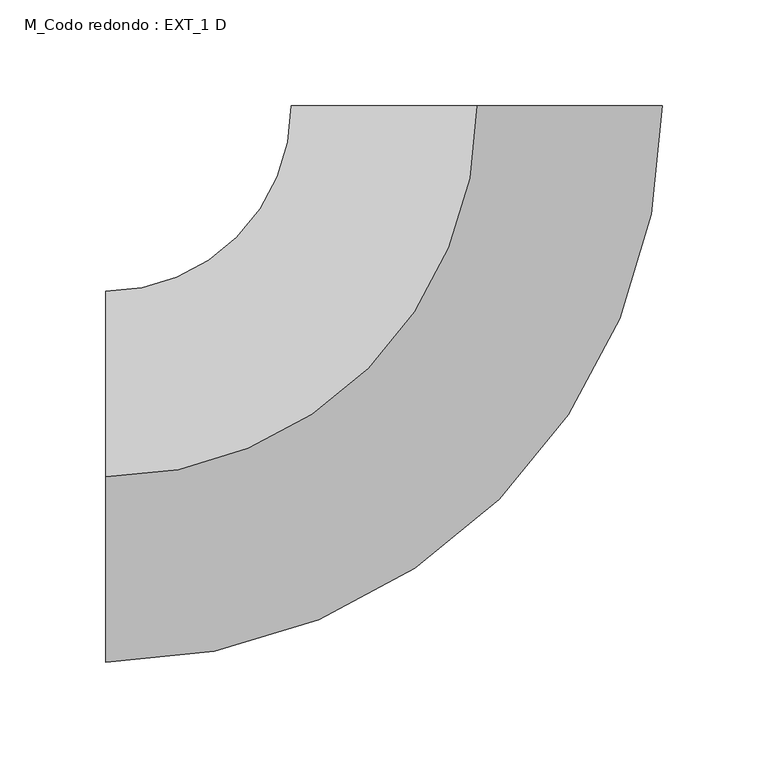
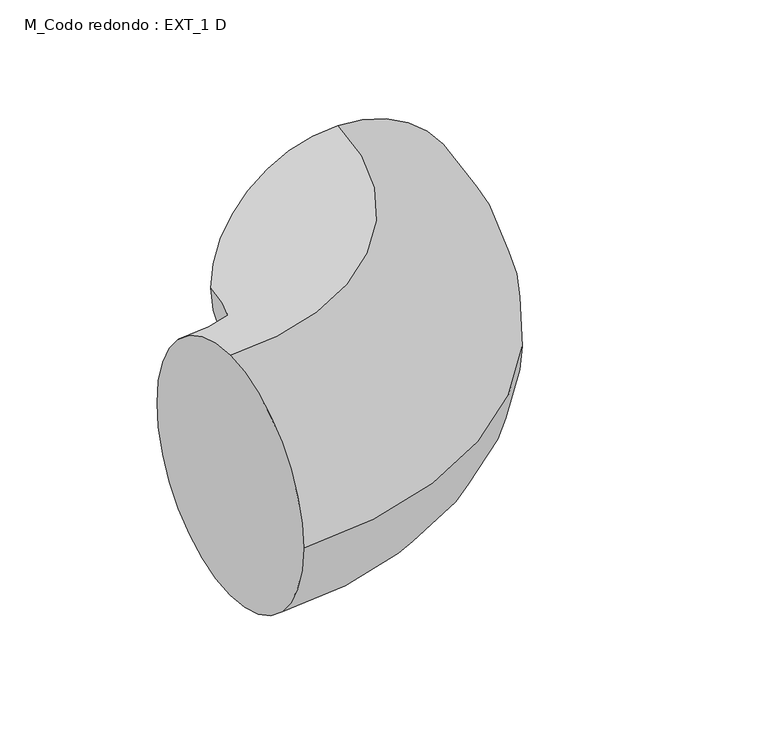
"""IFC4 building model written with IfcOpenShell, lengths in millimetres: duct fitting geometry, M_Codo redondo : EXT_1 D."""

from ifc_helpers import new_model, si_unit, point, frame, origin, place, context, project, spatial, circle_curve, ellipse_curve, trimmed, source, transform, mapped, element, save
from ifc_brep_helpers import plane_surface, revolved_surface, advanced_brep


def m_codo_redondo_ext_1_d_74319309(model_context):
    return source(origin(), model_context, "Body", "AdvancedBrep", [
        advanced_brep(
        [(-175.0, 0.0, 87.5), (-175.0, 87.5, 0.0), (-175.0, 0.0, -87.5), (-175.0, -87.5, 0.0), (0.0, 175.0, 87.5), (87.5, 175.0, 0.0), (0.0, 175.0, -87.5), (-87.5, 175.0, 0.0)],
        [
            (0, 1, circle_curve(frame((-175.0, 0.0, 0.0), z_axis=(-1.0, 0.0, 0.0), x_axis=(0.0, 1.0, 0.0)), 87.5)),
            (1, 2, circle_curve(frame((-175.0, 0.0, 0.0), z_axis=(-1.0, 0.0, 0.0), x_axis=(0.0, 1.0, 0.0)), 87.5)),
            (2, 3, circle_curve(frame((-175.0, 0.0, 0.0), z_axis=(-1.0, 0.0, 0.0), x_axis=(0.0, 1.0, 0.0)), 87.5)),
            (3, 0, circle_curve(frame((-175.0, 0.0, 0.0), z_axis=(-1.0, 0.0, 0.0), x_axis=(0.0, 1.0, 0.0)), 87.5)),
            (4, 5, circle_curve(frame((0.0, 175.0, 0.0), z_axis=(0.0, 1.0, 0.0), x_axis=(-1.0, 0.0, 0.0)), 87.5)),
            (5, 6, circle_curve(frame((0.0, 175.0, 0.0), z_axis=(0.0, 1.0, 0.0), x_axis=(-1.0, 0.0, 0.0)), 87.5)),
            (6, 7, circle_curve(frame((0.0, 175.0, 0.0), z_axis=(0.0, 1.0, 0.0), x_axis=(-1.0, 0.0, 0.0)), 87.5)),
            (7, 4, circle_curve(frame((0.0, 175.0, 0.0), z_axis=(0.0, 1.0, 0.0), x_axis=(-1.0, 0.0, 0.0)), 87.5)),
            (7, 1, circle_curve(frame((-175.0, 175.0, 0.0), z_axis=(0.0, 0.0, -1.0), x_axis=(0.0, -1.0, 0.0)), 87.5)),
            (0, 4, circle_curve(frame((-175.0, 175.0, 87.5), z_axis=(0.0, 0.0, 1.0), x_axis=(0.0, -1.0, 0.0)), 175.0)),
            (6, 2, circle_curve(frame((-175.0, 175.0, -87.5), z_axis=(0.0, 0.0, -1.0), x_axis=(0.0, -1.0, 0.0)), 175.0)),
            (5, 3, circle_curve(frame((-175.0, 175.0, 0.0), z_axis=(0.0, 0.0, -1.0), x_axis=(0.0, -1.0, 0.0)), 262.5)),
        ],
        [
            plane_surface(frame((-175.0, 0.0, 0.0), z_axis=(-1.0, 0.0, 0.0), x_axis=(0.0, 0.0, 1.0))),
            plane_surface(frame((0.0, 175.0, 0.0), z_axis=(0.0, 1.0, 0.0), x_axis=(0.0, 0.0, 1.0))),
            revolved_surface(trimmed(ellipse_curve(frame((-175.0, 0.0, 0.0), z_axis=(-1.0, 0.0, 0.0), x_axis=(0.0, 1.0, 0.0)), 87.5, 87.5), [point((-175.0, 0.0, 87.5))], [point((-175.0, 87.5, 0.0))], True, "CARTESIAN"), (-175.0, 175.0, 0.0), (0.0, 0.0, 1.0)),
            revolved_surface(trimmed(ellipse_curve(frame((-175.0, 0.0, 0.0), z_axis=(-1.0, 0.0, 0.0), x_axis=(0.0, 1.0, 0.0)), 87.5, 87.5), [point((-175.0, 87.5, 0.0))], [point((-175.0, 0.0, -87.5))], True, "CARTESIAN"), (-175.0, 175.0, 0.0), (0.0, 0.0, 1.0)),
            revolved_surface(trimmed(ellipse_curve(frame((-175.0, 0.0, 0.0), z_axis=(-1.0, 0.0, 0.0), x_axis=(0.0, 1.0, 0.0)), 87.5, 87.5), [point((-175.0, 0.0, -87.5))], [point((-175.0, -87.5, 0.0))], True, "CARTESIAN"), (-175.0, 175.0, 0.0), (0.0, 0.0, 1.0)),
            revolved_surface(trimmed(ellipse_curve(frame((-175.0, 0.0, 0.0), z_axis=(-1.0, 0.0, 0.0), x_axis=(0.0, 1.0, 0.0)), 87.5, 87.5), [point((-175.0, -87.5, 0.0))], [point((-175.0, 0.0, 87.5))], True, "CARTESIAN"), (-175.0, 175.0, 0.0), (0.0, 0.0, 1.0)),
        ],
        [
            (0, [[1, 2, 3, 4]]),
            (1, [[5, 6, 7, 8]]),
            (2, [[9, -1, 10, -8]]),
            (3, [[11, -2, -9, -7]]),
            (4, [[12, -3, -11, -6]]),
            (5, [[-10, -4, -12, -5]]),
        ],
    ),
    ])


if __name__ == "__main__":
    model = new_model("IFC4")
    model_context = context("Model", 3, world=origin())
    ifc_project = project(units=[si_unit("LENGTHUNIT", "METRE", prefix="MILLI")], contexts=[model_context])
    site = spatial("IfcSite", under=ifc_project)
    building = spatial("IfcBuilding", under=site)
    placement = place(None, origin())
    m_codo_redondo_ext_1_d_shape = m_codo_redondo_ext_1_d_74319309(model_context)
    element("IfcDuctFitting", 1, ObjectType="M_Codo redondo : EXT_1 D", at=placement, inside=building, context=model_context, shape_type="MappedRepresentation", body=[
        mapped(m_codo_redondo_ext_1_d_shape, transform((0.0, 0.0, 0.0), x_axis=(1.0, 0.0, 0.0), y_axis=(0.0, 1.0, 0.0), z_axis=(0.0, 0.0, 1.0))),
    ])
    save(model, "model.ifc")
